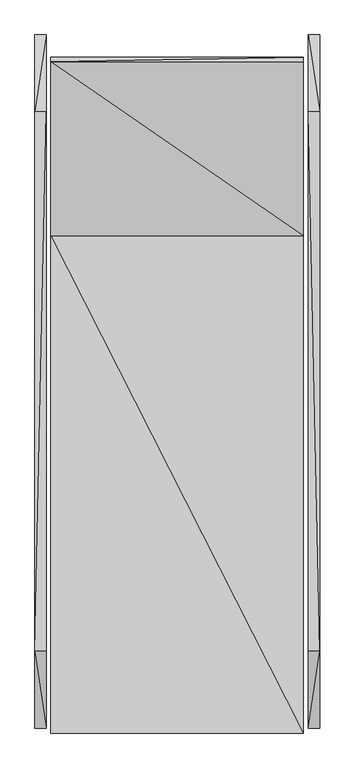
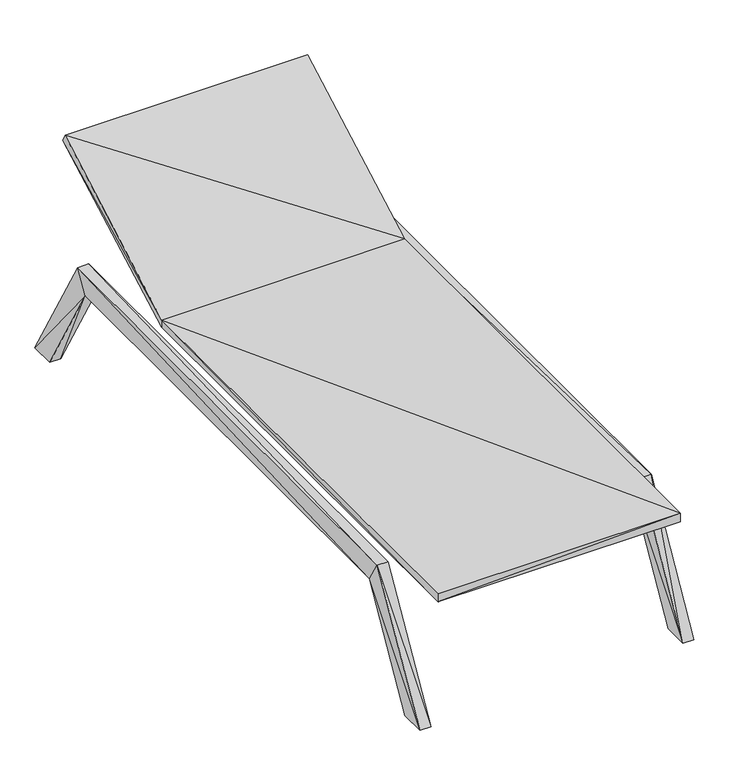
"""IFC4 building model written with IfcOpenShell, lengths in millimetres: geographic element geometry, Enscape AssetDefinition - Sunbed : Enscape AssetDefinition - Sunbed."""

from ifc_helpers import new_model, si_unit, origin, place, context, project, spatial, faceted_brep, source, transform, mapped, element, save


def geographic_element_0adfae54(model_context):
    return source(origin(), model_context, "Body", "Brep", [
        faceted_brep([(392.5974369, -954.9666643, -0.0002228), (392.5974965, -742.7518964, 371.3757098), (360.7652187, -954.9666643, -0.0002228), (392.5974965, -705.806613, 307.7109754), (392.5974369, 742.7517772, 371.3759482), (360.7652187, 742.7517772, 371.3760078), (360.7652485, -742.7518964, 371.3757694), (360.7652187, -881.6410303, -0.0002122), (360.7652485, -705.806613, 307.7109754), (392.5974369, -881.6410303, -0.0002122), (360.7651889, 705.8064342, 307.7112138), (392.5974071, 705.8064342, 307.7112138), (360.7651293, 954.9666643, 9.55e-05), (360.7651293, 881.6410303, 8.49e-05), (392.5973773, 954.9666643, 9.55e-05), (392.5973773, 881.6410303, 8.49e-05)], [[[0, 1, 2]], [[1, 0, 3]], [[1, 3, 4]], [[4, 5, 1]], [[2, 1, 6]], [[1, 5, 6]], [[7, 2, 8]], [[8, 2, 6]], [[7, 0, 2]], [[9, 0, 7]], [[3, 0, 9]], [[9, 7, 3]], [[3, 7, 8]], [[6, 10, 8]], [[10, 3, 8]], [[11, 3, 10]], [[4, 3, 11]], [[5, 12, 10]], [[5, 10, 6]], [[10, 12, 13]], [[13, 11, 10]], [[4, 12, 5]], [[14, 12, 4]], [[14, 13, 12]], [[15, 13, 14]], [[15, 11, 13]], [[4, 11, 14]], [[14, 11, 15]]]),
        faceted_brep([(-392.5973773, -954.9666643, -9.55e-05), (-360.7651293, -954.9666643, -9.55e-05), (-392.5973177, -742.7518964, 371.3758886), (-360.7650995, -742.7518964, 371.375829), (-360.7650995, -705.806613, 307.7110946), (-360.7651293, -881.6410303, -8.49e-05), (-392.5973177, -705.806613, 307.7110946), (-392.5973773, -881.6410303, -8.49e-05), (-360.7651889, 705.8064342, 307.711333), (-360.7651293, 742.7517772, 371.3760972), (-360.7652187, 881.6410303, 0.0002122), (-360.7652187, 954.9666643, 0.0002228), (-392.5974071, 705.8064342, 307.711333), (-392.5973773, 742.7517772, 371.376127), (-392.5974369, 954.9666643, 0.0002228), (-392.5974369, 881.6410303, 0.0002122)], [[[0, 1, 2]], [[3, 1, 4]], [[2, 1, 3]], [[4, 1, 5]], [[0, 5, 1]], [[2, 6, 0]], [[7, 5, 0]], [[0, 6, 7]], [[7, 6, 5]], [[5, 6, 4]], [[8, 3, 4]], [[6, 8, 4]], [[9, 3, 8]], [[9, 2, 3]], [[10, 11, 8]], [[12, 8, 6]], [[8, 11, 9]], [[12, 10, 8]], [[2, 13, 6]], [[6, 13, 12]], [[13, 14, 12]], [[15, 10, 12]], [[12, 14, 15]], [[15, 14, 10]], [[10, 14, 11]], [[14, 13, 11]], [[11, 13, 9]], [[13, 2, 9]]]),
        faceted_brep([(-348.7562835, 401.89147, 403.8666189), (346.3401496, 401.89147, 406.1557353), (-348.7562239, 881.5631866, 671.6266274), (-348.7562239, 893.5978413, 650.0523686), (346.4543819, 893.5978413, 650.052309), (-348.7562835, 401.89147, 382.2922707), (346.4543819, 881.5631866, 671.6265678), (346.3401496, 401.89147, 381.4518154), (346.340239, -968.1569934, 381.4515471), (346.340239, -968.1569934, 406.1554968), (-348.8703966, -968.1569934, 381.4516366), (-348.8703966, -968.1569934, 406.1555862)], [[[0, 1, 2]], [[3, 4, 5]], [[6, 1, 4]], [[6, 4, 2]], [[2, 3, 0]], [[7, 8, 5]], [[8, 9, 10]], [[11, 0, 10]], [[11, 9, 0]], [[8, 7, 9]], [[2, 1, 6]], [[5, 4, 7]], [[4, 1, 7]], [[2, 4, 3]], [[0, 3, 5]], [[5, 8, 10]], [[10, 9, 11]], [[10, 0, 5]], [[0, 9, 1]], [[9, 7, 1]]]),
    ])


if __name__ == "__main__":
    model = new_model("IFC4")
    model_context = context("Model", 3, world=origin())
    ifc_project = project(units=[si_unit("LENGTHUNIT", "METRE", prefix="MILLI")], contexts=[model_context])
    site = spatial("IfcSite", under=ifc_project)
    building = spatial("IfcBuilding", under=site)
    placement = place(None, origin())
    geographic_element_shape = geographic_element_0adfae54(model_context)
    element("IfcGeographicElement", 1, ObjectType="Enscape AssetDefinition - Sunbed : Enscape AssetDefinition - Sunbed", at=placement, inside=building, context=model_context, shape_type="MappedRepresentation", body=[
        mapped(geographic_element_shape, transform((0.0, 0.0, 0.0), x_axis=(1.0, 0.0, 0.0), y_axis=(0.0, 1.0, 0.0), z_axis=(0.0, 0.0, 1.0))),
    ])
    save(model, "model.ifc")
